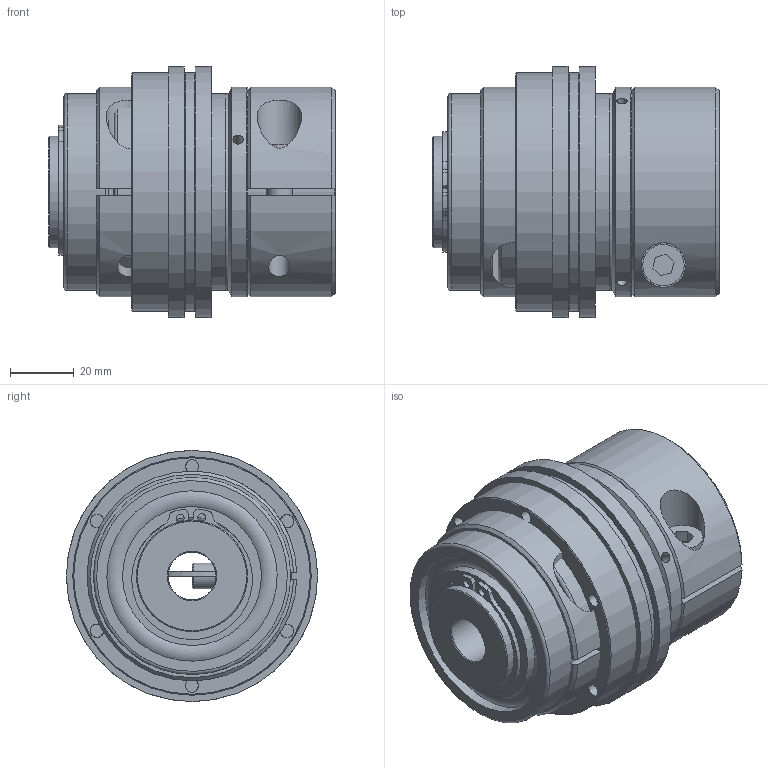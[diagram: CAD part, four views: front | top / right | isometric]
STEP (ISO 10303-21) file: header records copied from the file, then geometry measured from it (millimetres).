
FILE_DESCRIPTION( ( 'Unknown' ), '1' );
FILE_NAME( 'C:/Dokumente und Einstellungen/Sven/Desktop/hp kbk/KBK LL-K-60.stp', 'Unknown', ( 'Unknown' ), ( 'Unknown' ), 'XStep 1.0', 'Unknown', ' ' );
FILE_SCHEMA( ( 'automotive_design' ) );
Length unit declared in the file: millimetre
Products named in the file (13): Assem1; Assem2; Assem3; ball_bearing_-_6007_0_01; ball_bearing_-_6007_0_02; ball_bearing_-_6007_0_03; Zylinderschraube DIN 912_4; Stellring 60; Druckring 60; a_35; Klemmnabe 60; KBK LL-K-60 Grundkörper; Flansch 60
Bounding box: 90 x 79 x 79 mm (x, y, z)
Volume: 546377.8 mm3; surface area: 204441.5 mm2
Topology: 28 solids, 28 shells, 335 faces, 694 edges, 447 vertices
Faces by surface type: cylinder 132, plane 126, cone 45, torus 32
Full cylindrical faces by diameter (mm): 2.5 x6, 3.242 x6, 4 x6, 4.134 x12, 6.647 x2, 8 x3, 8.5 x2, 13 x3, 14 x2, 15 x2, 33 x4, 35 x12, 43.7 x8, 44 x2, 46 x4, 46.5 x2, 53.6 x8, 61.3 x2, 62 x6, 66 x2, 75 x4, 79 x2
Entity records: 4012 total; most frequent: CARTESIAN_POINT 1015, DIRECTION 608, ORIENTED_EDGE 400, AXIS2_PLACEMENT_3D 277, EDGE_LOOP 246, EDGE_CURVE 200, FACE_OUTER_BOUND 185, VERTEX_POINT 168
